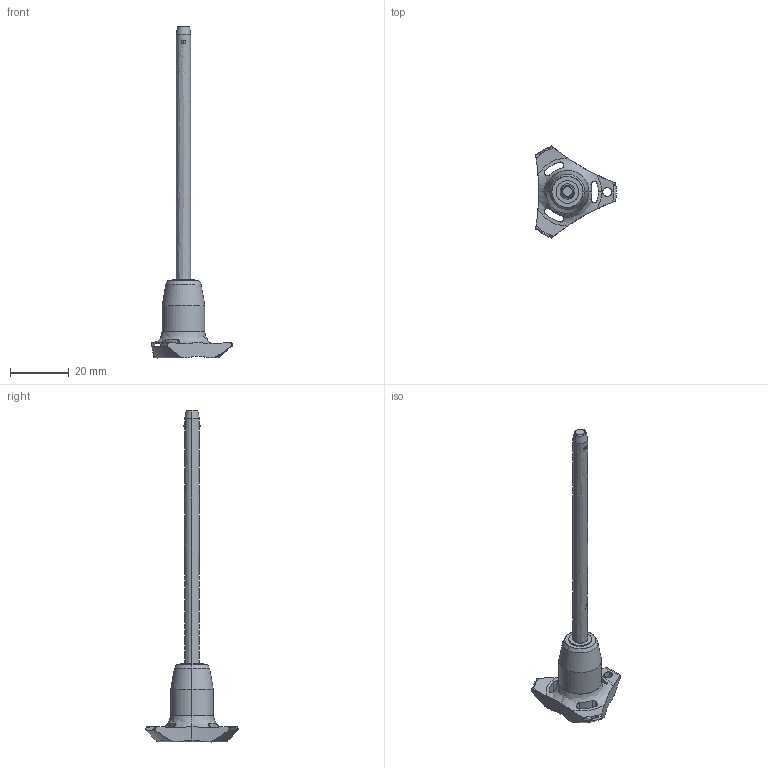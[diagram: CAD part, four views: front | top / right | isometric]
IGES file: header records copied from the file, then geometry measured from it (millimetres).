
Start section: SolidWorks IGES file using analytic representation for surfaces
Global section: file name: C:\Users\ianosborn\Desktop\QR1704_v2\QR1704_v2_20251111_IGES\QR1704.M05-080-S.igs; native system: SolidWorks 2019; preprocessor: SolidWorks 2019; author: IanOsborn; date: 251112.091133; units: millimetre
Bounding box: 27.4 x 31.31 x 112.7 mm (x, y, z)
Surface area: 3765 mm2 (no closed solid volume)
Topology: 0 solids, 0 shells, 66 faces, 1227 edges, 1208 vertices
Faces by surface type: revolution 50, bspline 16
